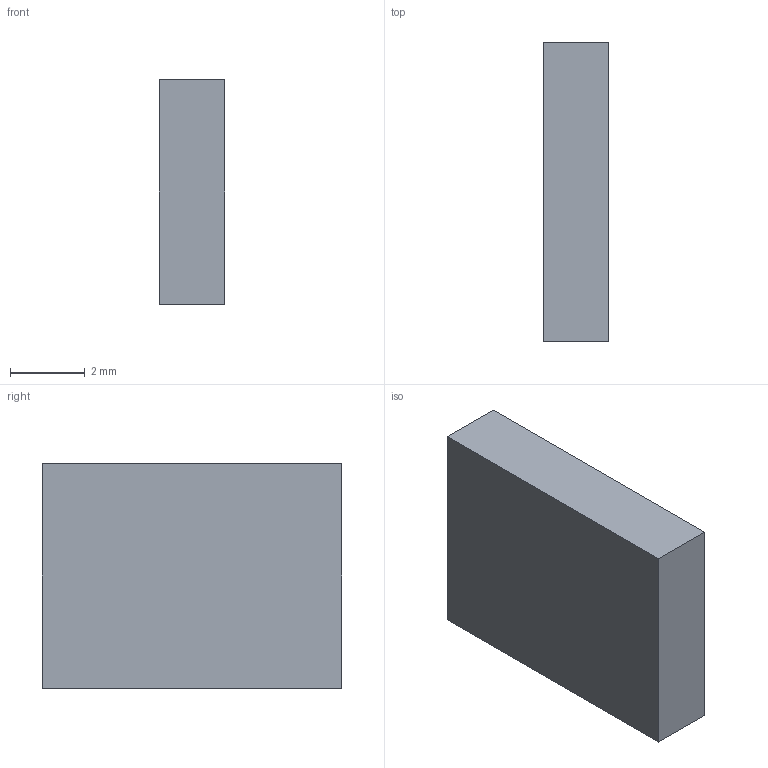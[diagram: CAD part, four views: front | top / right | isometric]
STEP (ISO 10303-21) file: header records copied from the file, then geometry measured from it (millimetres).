
FILE_DESCRIPTION(('Open CASCADE Model'),'2;1');
FILE_NAME('Open CASCADE Shape Model','2026-10-04T02:31:41',('Author'),( 'Open CASCADE'),'Open CASCADE STEP processor 8.0','Open CASCADE 8.0' ,'Unknown');
FILE_SCHEMA(('AUTOMOTIVE_DESIGN { 1 0 10303 214 1 1 1 1 }'));
Length unit declared in the file: millimetre
Products named in the file (1): Open CASCADE STEP translator 8.0 273
Bounding box: 1.74 x 8 x 6 mm (x, y, z)
Volume: 83.6 mm3; surface area: 144.8 mm2
Topology: 1 solids, 1 shells, 6 faces, 12 edges, 8 vertices
Faces by surface type: plane 6
Entity records: 322 total; most frequent: CARTESIAN_POINT 51, DIRECTION 50, LINE 36, VECTOR 36, ORIENTED_EDGE 24, PCURVE 24, DEFINITIONAL_REPRESENTATION 24, EDGE_CURVE 12
